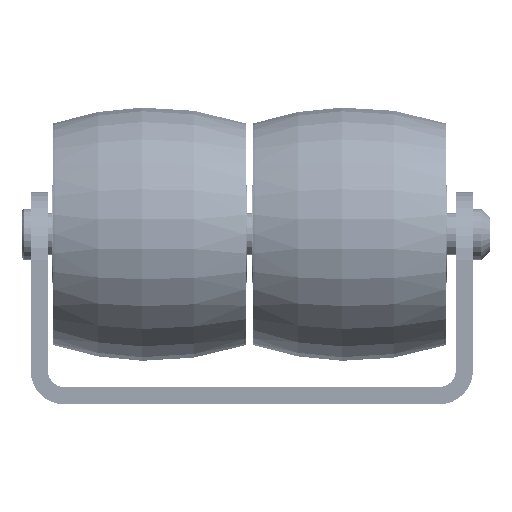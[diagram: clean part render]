
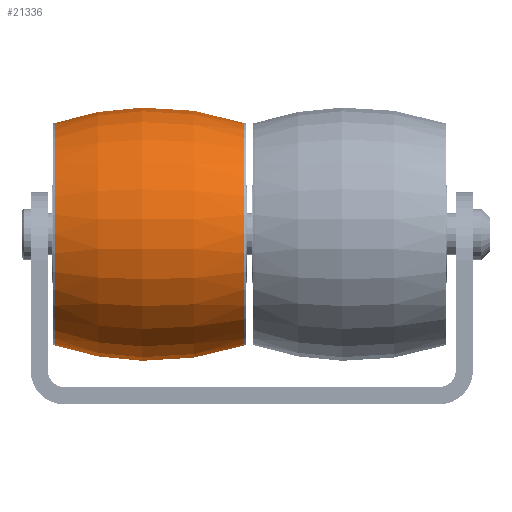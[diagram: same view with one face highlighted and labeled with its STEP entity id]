
A CAD part, front view. The second image highlights one B-rep face of the part: STEP entity #21336.
In plain terms, the highlighted toroidal (fillet/blend) face has major radius 20.11 mm and minor radius 35 mm.
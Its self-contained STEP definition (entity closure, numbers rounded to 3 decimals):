
#18=DEGENERATE_TOROIDAL_SURFACE('',#23795,20.11,35.,.F.);
#2662=CIRCLE('',#23792,13.08);
#2663=CIRCLE('',#23794,13.08);
#8392=ORIENTED_EDGE('',*,*,#11257,.F.);
#8393=ORIENTED_EDGE('',*,*,#11258,.F.);
#11257=EDGE_CURVE('',#13216,#13216,#2662,.T.);
#11258=EDGE_CURVE('',#13217,#13217,#2663,.T.);
#13216=VERTEX_POINT('',#36663);
#13217=VERTEX_POINT('',#36666);
#18046=EDGE_LOOP('',(#8392));
#18047=EDGE_LOOP('',(#8393));
#19724=FACE_BOUND('',#18046,.T.);
#19725=FACE_BOUND('',#18047,.T.);
#21336=ADVANCED_FACE('',(#19724,#19725),#18,.F.);
#23792=AXIS2_PLACEMENT_3D('',#36662,#30358,#30359);
#23794=AXIS2_PLACEMENT_3D('',#36665,#30362,#30363);
#23795=AXIS2_PLACEMENT_3D('',#36667,#30364,#30365);
#30358=DIRECTION('',(1.,0.,0.));
#30359=DIRECTION('',(0.,0.,-1.));
#30362=DIRECTION('',(-1.,0.,0.));
#30363=DIRECTION('',(0.,0.,1.));
#30364=DIRECTION('',(1.,0.,0.));
#30365=DIRECTION('',(0.,0.,-1.));
#36662=CARTESIAN_POINT('',(-0.388,0.,0.));
#36663=CARTESIAN_POINT('',(-0.388,0.,-13.08));
#36665=CARTESIAN_POINT('',(-22.612,0.,0.));
#36666=CARTESIAN_POINT('',(-22.612,0.,13.08));
#36667=CARTESIAN_POINT('',(-11.5,0.,0.));
